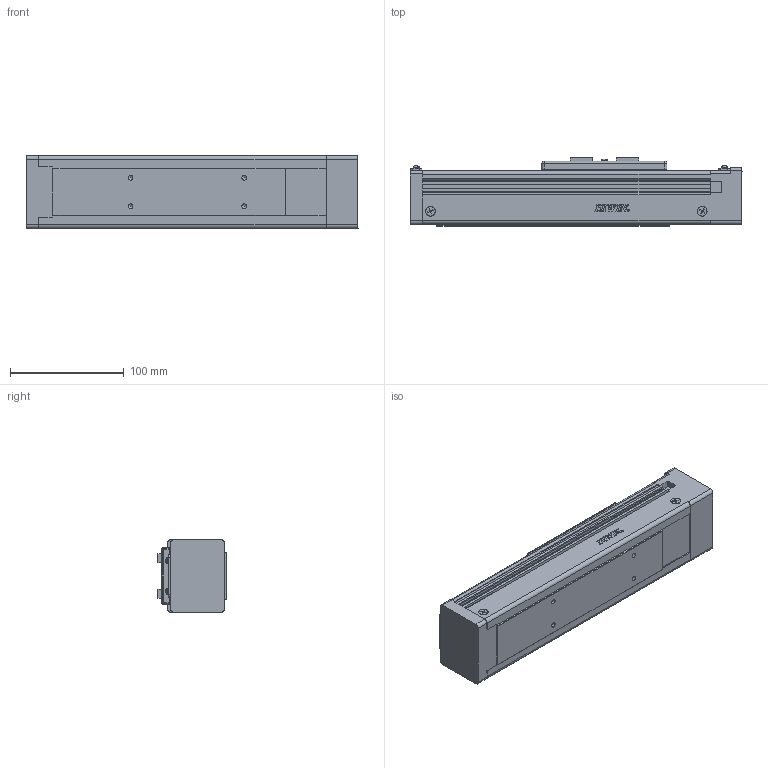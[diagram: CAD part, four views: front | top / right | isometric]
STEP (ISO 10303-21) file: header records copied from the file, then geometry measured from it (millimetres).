
FILE_DESCRIPTION(/* description */ (''),/* implementation_level */ '2;1');
FILE_NAME(/* name */ 'D:\混合母檔20191031\混和母檔\混和母檔\bin\Debug\Download\3D\KE655C-100AF0\KE655C-100AF0.stp',/* time_stamp */ '2019-11-04T13:42:57+08:00',/* author */ ('user'),/* organization */ (''),/* preprocessor_version */ 'ST-DEVELOPER v16.13',/* originating_system */ 'Autodesk Inventor 2018',/* authorisation */ '');
FILE_SCHEMA (('AUTOMOTIVE_DESIGN { 1 0 10303 214 3 1 1 }'));
Length unit declared in the file: millimetre
Products named in the file (3): KE655C-100AF0; KE65-F0-BP; KE65-SL
Assembly tree (2 placements, depth 2):
  KE655C-100AF0
    KE65-F0-BP
    KE65-SL
Bounding box: 292 x 60 x 64.57 mm (x, y, z)
Volume: 849357.4 mm3; surface area: 112816.8 mm2
Topology: 2 solids, 17 shells, 1072 faces, 2908 edges, 1908 vertices
Faces by surface type: plane 581, cone 158, bspline 136, cylinder 133, torus 54, sphere 10
Full cylindrical faces by diameter (mm): 2.459 x8, 2.729 x4, 3 x4, 3.242 x8, 3.5 x6, 3.571 x4, 4.134 x4, 4.2 x4, 6 x1, 8 x1, 8.4 x8, 30 x1
Entity records: 39223 total; most frequent: CARTESIAN_POINT 12883, ORIENTED_EDGE 5428, DIRECTION 4866, EDGE_CURVE 2714, VERTEX_POINT 1841, LINE 1652, VECTOR 1652, AXIS2_PLACEMENT_3D 1607
